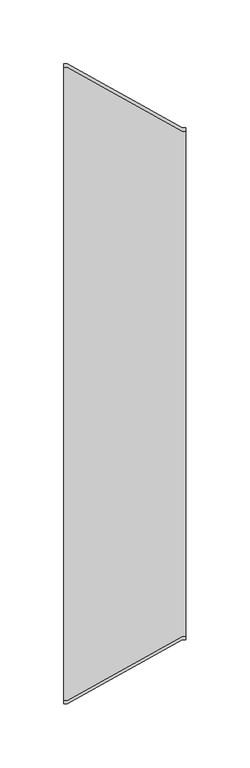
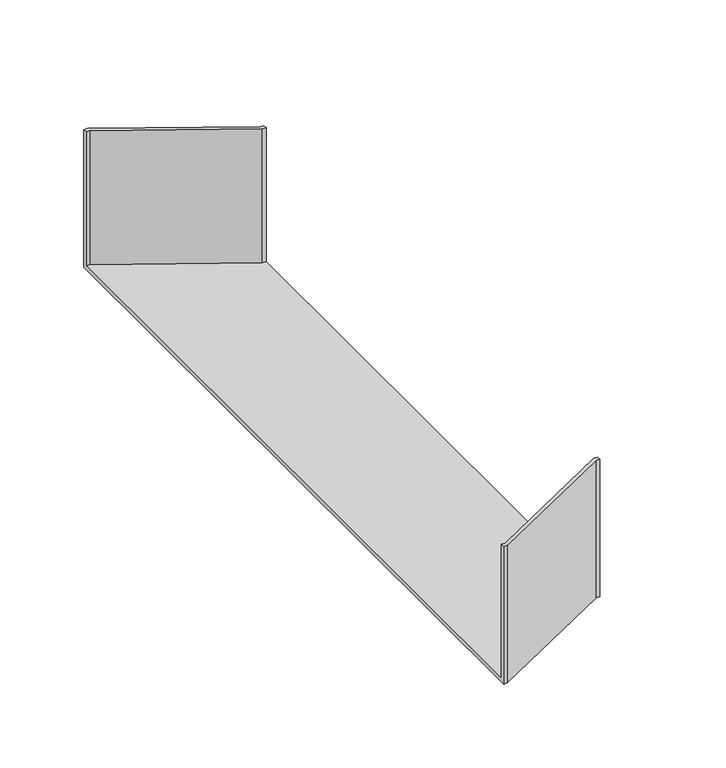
"""IFC4 building model written with IfcOpenShell, lengths in millimetres: cable carrier fitting geometry, BAKS_Reducer : RK(S/L/P)J_H100."""

from ifc_helpers import new_model, si_unit, origin, place, context, project, spatial, faceted_brep, source, transform, mapped, element, save


def cable_carrier_fitting_38514b7d(model_context):
    return source(origin(), model_context, "Body", "Brep", [
        faceted_brep([(0.0, -250.0, -50.0), (0.0, -250.0, 50.0), (0.0, -247.46, 50.0), (0.0, -247.46, -47.46), (0.0, 247.46, -47.46), (0.0, 247.46, 50.0), (0.0, 250.0, 50.0), (0.0, 250.0, -50.0), (95.0, -200.0, -50.0), (95.0, 200.0, -50.0), (95.0, 200.0, 50.0), (95.0, 197.46, 50.0), (95.0, 197.46, -47.46), (95.0, -197.46, -47.46), (95.0, -197.46, 50.0), (95.0, -200.0, 50.0), (2.5, -250.0, -50.0), (2.5, -250.0, 50.0), (92.5, -200.0, 50.0), (92.5, -197.46, 50.0), (2.5, -247.46, 50.0), (2.5, -247.46, -47.46), (92.5, -197.46, -47.46), (92.5, 197.46, -47.46), (2.5, 247.46, -47.46), (2.5, 247.46, 50.0), (92.5, 197.46, 50.0), (92.5, 200.0, 50.0), (2.5, 250.0, 50.0), (2.5, 250.0, -50.0), (92.5, 200.0, -50.0), (92.5, -200.0, -50.0)], [[[0, 1, 2, 3, 4, 5, 6, 7]], [[8, 9, 10, 11, 12, 13, 14, 15]], [[1, 0, 16, 17]], [[2, 1, 17, 18, 15, 14, 19, 20]], [[3, 2, 20, 21]], [[4, 3, 21, 22, 13, 12, 23, 24]], [[5, 4, 24, 25]], [[6, 5, 25, 26, 11, 10, 27, 28]], [[7, 6, 28, 29]], [[0, 7, 29, 30, 9, 8, 31, 16]], [[8, 15, 18, 31]], [[14, 13, 22, 19]], [[12, 11, 26, 23]], [[10, 9, 30, 27]], [[30, 29, 28, 27]], [[26, 25, 24, 23]], [[22, 21, 20, 19]], [[16, 31, 18, 17]]]),
    ])


if __name__ == "__main__":
    model = new_model("IFC4")
    model_context = context("Model", 3, world=origin())
    ifc_project = project(units=[si_unit("LENGTHUNIT", "METRE", prefix="MILLI")], contexts=[model_context])
    site = spatial("IfcSite", under=ifc_project)
    building = spatial("IfcBuilding", under=site)
    placement = place(None, origin())
    cable_carrier_fitting_shape = cable_carrier_fitting_38514b7d(model_context)
    element("IfcCableCarrierFitting", 1, ObjectType="BAKS_Reducer : RK(S/L/P)J_H100", at=placement, inside=building, context=model_context, shape_type="MappedRepresentation", body=[
        mapped(cable_carrier_fitting_shape, transform((0.0, 0.0, 0.0), x_axis=(1.0, 0.0, 0.0), y_axis=(0.0, 1.0, 0.0), z_axis=(0.0, 0.0, 1.0))),
    ])
    save(model, "model.ifc")
